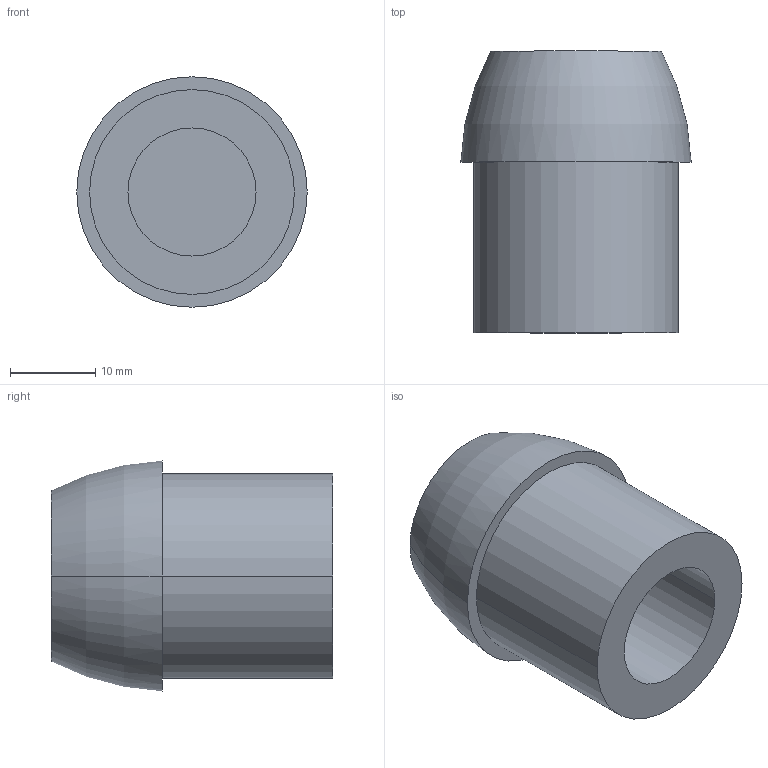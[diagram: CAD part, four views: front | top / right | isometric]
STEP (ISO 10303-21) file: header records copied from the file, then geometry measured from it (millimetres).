
FILE_DESCRIPTION (( 'STEP AP214' ), '1' );
FILE_NAME ('JB-402.step', '2023-12-26T00:49:01', ( 'catia' ), ( 'HP Inc.' ), 'SwSTEP 2.0', 'SolidWorks 2021', '' );
FILE_SCHEMA (( 'AUTOMOTIVE_DESIGN' ));
Length unit declared in the file: millimetre
Products named in the file (1): JB-402
Bounding box: 27 x 33 x 27 mm (x, y, z)
Volume: 10831.2 mm3; surface area: 4617.2 mm2
Topology: 1 solids, 1 shells, 10 faces, 18 edges, 12 vertices
Faces by surface type: cylinder 4, plane 4, torus 2
Entity records: 290 total; most frequent: DIRECTION 54, CARTESIAN_POINT 41, ORIENTED_EDGE 36, AXIS2_PLACEMENT_3D 25, EDGE_CURVE 18, CIRCLE 14, EDGE_LOOP 12, VERTEX_POINT 12
